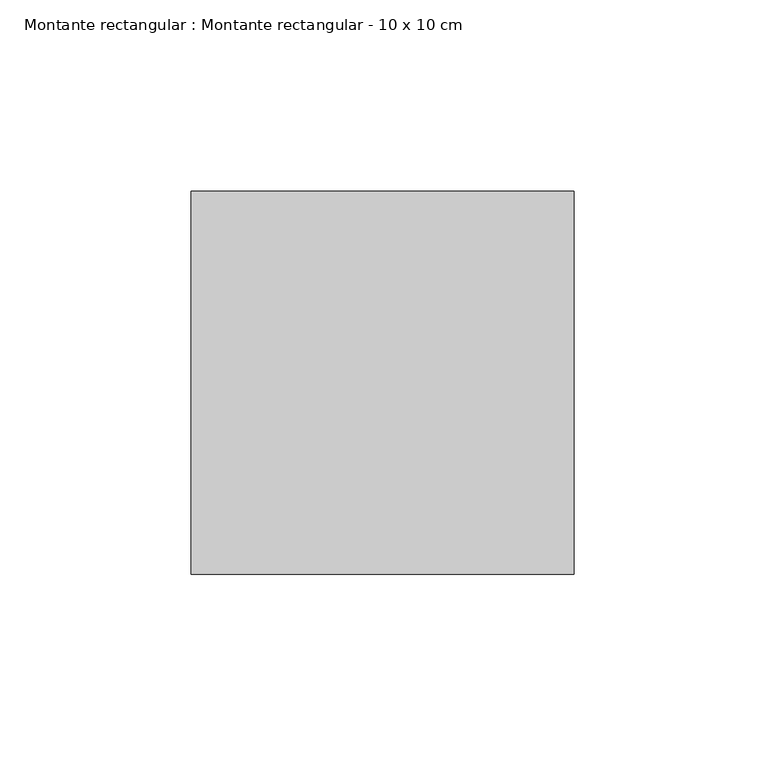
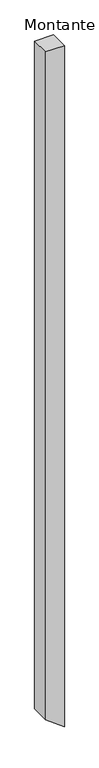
"""IFC4 building model written with IfcOpenShell, lengths in millimetres: member geometry, Montante rectangular : Montante rectangular - 10 x 10 cm."""

from ifc_helpers import new_model, si_unit, frame, origin, place, context, project, spatial, polyline, outline, extrude, source, transform, mapped, element, save


def montante_rectangular_montante_rectangular_10_x_10_cm_c94324d3(model_context):
    return source(origin(), model_context, "Body", "SweptSolid", [
        extrude(outline(polyline([(0.0, 0.0), (0.0, -100.0), (-3753.762096, -100.0), (-3829.7668911, 0.0), (0.0, 0.0)])), frame((0.0, -50.0, 0.0), z_axis=(0.0, 1.0, 0.0), x_axis=(0.0, 0.0, 1.0)), (0.0, 0.0, 1.0), 100.0),
    ])


if __name__ == "__main__":
    model = new_model("IFC4")
    model_context = context("Model", 3, world=origin())
    ifc_project = project(units=[si_unit("LENGTHUNIT", "METRE", prefix="MILLI")], contexts=[model_context])
    site = spatial("IfcSite", under=ifc_project)
    building = spatial("IfcBuilding", under=site)
    placement = place(None, origin())
    montante_rectangular_montante_rectangular_10_x_10_cm_shape = montante_rectangular_montante_rectangular_10_x_10_cm_c94324d3(model_context)
    element("IfcMember", 1, ObjectType="Montante rectangular : Montante rectangular - 10 x 10 cm", at=placement, inside=building, context=model_context, shape_type="MappedRepresentation", body=[
        mapped(montante_rectangular_montante_rectangular_10_x_10_cm_shape, transform((0.0, 0.0, 0.0), x_axis=(1.0, 0.0, 0.0), y_axis=(0.0, 1.0, 0.0), z_axis=(0.0, 0.0, 1.0))),
    ])
    save(model, "model.ifc")
